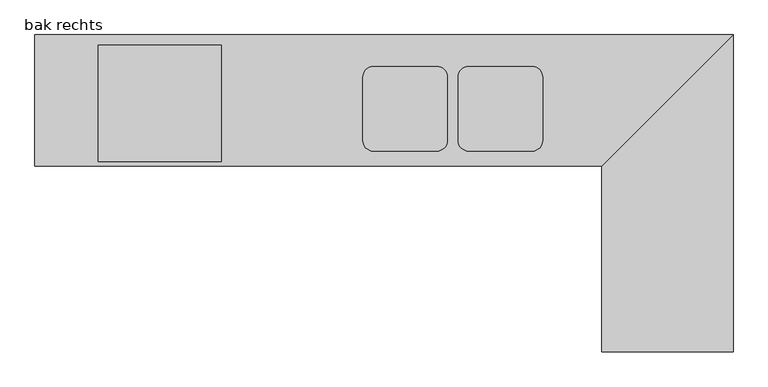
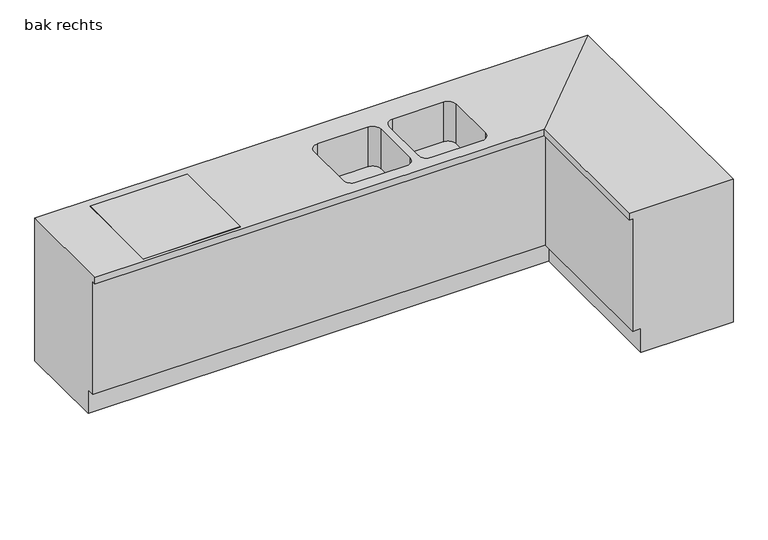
"""IFC4 building model written with IfcOpenShell, lengths in millimetres: furniture geometry, NL_73_aanrechtblok hoek : bak rechts."""

from ifc_helpers import new_model, si_unit, frame, origin, place, context, project, spatial, polyline, circle_curve, outline, extrude, source, transform, mapped, element, save
from ifc_brep_helpers import plane_surface, revolved_surface, advanced_brep


def bak_rechts_88211681(model_context):
    return source(origin(), model_context, "Body", "SolidModel", [
        extrude(outline(polyline([(-1889.8761694, -50.0), (-1889.8761694, -600.0), (-2469.8761694, -600.0), (-2469.8761694, -50.0), (-1889.8761694, -50.0)])), frame((0.0, 0.0, 900.0), z_axis=(0.0, 0.0, 1.0), x_axis=(1.0, 0.0, 0.0)), (0.0, 0.0, 1.0), 2.0),
        advanced_brep(
        [(-2769.8761694, -550.0, 0.0), (-2769.8761694, -550.0, 150.0), (-2769.8761694, -600.0, 150.0), (-2769.8761694, -600.0, 860.0), (-2769.8761694, -620.0, 860.0), (-2769.8761694, -620.0, 900.0), (-2769.8761694, 0.0, 900.0), (-2769.8761694, 0.0, 0.0), (-19.8761694, -550.0, 0.0), (-19.8761694, -550.0, 150.0), (-69.8761694, -600.0, 150.0), (-69.8761694, -600.0, 860.0), (-89.8761694, -620.0, 860.0), (-89.8761694, -620.0, 900.0), (530.1238306, 0.0, 900.0), (-1169.8761694, -150.0, 900.0), (-869.8761694, -150.0, 900.0), (-819.8761694, -200.0, 900.0), (-819.8761694, -500.0, 900.0), (-869.8761694, -550.0, 900.0), (-1169.8761694, -550.0, 900.0), (-1219.8761694, -500.0, 900.0), (-1219.8761694, -200.0, 900.0), (-719.8761694, -150.0, 900.0), (-419.8761694, -150.0, 900.0), (-369.8761694, -200.0, 900.0), (-369.8761694, -500.0, 900.0), (-419.8761694, -550.0, 900.0), (-719.8761694, -550.0, 900.0), (-769.8761694, -500.0, 900.0), (-769.8761694, -200.0, 900.0), (530.1238306, 0.0, 0.0), (-19.8761694, -1500.0, 0.0), (530.1238306, -1500.0, 0.0), (530.1238306, -1500.0, 900.0), (-89.8761694, -1500.0, 900.0), (-89.8761694, -1500.0, 860.0), (-69.8761694, -1500.0, 860.0), (-69.8761694, -1500.0, 150.0), (-19.8761694, -1500.0, 150.0), (-869.8761694, -150.0, 650.0), (-1169.8761694, -150.0, 650.0), (-1219.8761694, -200.0, 650.0), (-1219.8761694, -500.0, 650.0), (-1169.8761694, -550.0, 650.0), (-869.8761694, -550.0, 650.0), (-819.8761694, -500.0, 650.0), (-819.8761694, -200.0, 650.0), (-419.8761694, -150.0, 650.0), (-719.8761694, -150.0, 650.0), (-769.8761694, -200.0, 650.0), (-769.8761694, -500.0, 650.0), (-719.8761694, -550.0, 650.0), (-419.8761694, -550.0, 650.0), (-369.8761694, -500.0, 650.0), (-369.8761694, -200.0, 650.0)],
        [
            (0, 1),
            (1, 2),
            (2, 3),
            (3, 4),
            (4, 5),
            (5, 6),
            (6, 7),
            (7, 0),
            (0, 8),
            (8, 9),
            (9, 1),
            (9, 10),
            (10, 2),
            (10, 11),
            (11, 3),
            (11, 12),
            (12, 4),
            (12, 13),
            (13, 5),
            (13, 14),
            (14, 6),
            (15, 16),
            (16, 17, circle_curve(frame((-869.8761694, -200.0, 900.0), z_axis=(0.0, 0.0, -1.0), x_axis=(0.0, -1.0, 0.0)), 50.0)),
            (17, 18),
            (18, 19, circle_curve(frame((-869.8761694, -500.0, 900.0), z_axis=(0.0, 0.0, -1.0), x_axis=(0.0, -1.0, 0.0)), 50.0)),
            (19, 20),
            (20, 21, circle_curve(frame((-1169.8761694, -500.0, 900.0), z_axis=(0.0, 0.0, -1.0), x_axis=(0.0, -1.0, 0.0)), 50.0)),
            (21, 22),
            (22, 15, circle_curve(frame((-1169.8761694, -200.0, 900.0), z_axis=(0.0, 0.0, -1.0), x_axis=(0.0, -1.0, 0.0)), 50.0)),
            (23, 24),
            (24, 25, circle_curve(frame((-419.8761694, -200.0, 900.0), z_axis=(0.0, 0.0, -1.0), x_axis=(0.0, -1.0, 0.0)), 50.0)),
            (25, 26),
            (26, 27, circle_curve(frame((-419.8761694, -500.0, 900.0), z_axis=(0.0, 0.0, -1.0), x_axis=(0.0, -1.0, 0.0)), 50.0)),
            (27, 28),
            (28, 29, circle_curve(frame((-719.8761694, -500.0, 900.0), z_axis=(0.0, 0.0, -1.0), x_axis=(0.0, -1.0, 0.0)), 50.0)),
            (29, 30),
            (30, 23, circle_curve(frame((-719.8761694, -200.0, 900.0), z_axis=(0.0, 0.0, -1.0), x_axis=(0.0, -1.0, 0.0)), 50.0)),
            (14, 31),
            (31, 7),
            (31, 8),
            (32, 33),
            (33, 34),
            (34, 35),
            (35, 36),
            (36, 37),
            (37, 38),
            (38, 39),
            (39, 32),
            (8, 32),
            (39, 9),
            (38, 10),
            (37, 11),
            (36, 12),
            (35, 13),
            (34, 14),
            (33, 31),
            (40, 41),
            (41, 42, circle_curve(frame((-1169.8761694, -200.0, 650.0), z_axis=(0.0, 0.0, 1.0), x_axis=(0.0, -1.0, 0.0)), 50.0)),
            (42, 43),
            (43, 44, circle_curve(frame((-1169.8761694, -500.0, 650.0), z_axis=(0.0, 0.0, 1.0), x_axis=(0.0, -1.0, 0.0)), 50.0)),
            (44, 45),
            (45, 46, circle_curve(frame((-869.8761694, -500.0, 650.0), z_axis=(0.0, 0.0, 1.0), x_axis=(0.0, -1.0, 0.0)), 50.0)),
            (46, 47),
            (47, 40, circle_curve(frame((-869.8761694, -200.0, 650.0), z_axis=(0.0, 0.0, 1.0), x_axis=(0.0, -1.0, 0.0)), 50.0)),
            (40, 16),
            (15, 41),
            (22, 42),
            (21, 43),
            (20, 44),
            (19, 45),
            (18, 46),
            (17, 47),
            (48, 49),
            (49, 50, circle_curve(frame((-719.8761694, -200.0, 650.0), z_axis=(0.0, 0.0, 1.0), x_axis=(0.0, -1.0, 0.0)), 50.0)),
            (50, 51),
            (51, 52, circle_curve(frame((-719.8761694, -500.0, 650.0), z_axis=(0.0, 0.0, 1.0), x_axis=(0.0, -1.0, 0.0)), 50.0)),
            (52, 53),
            (53, 54, circle_curve(frame((-419.8761694, -500.0, 650.0), z_axis=(0.0, 0.0, 1.0), x_axis=(0.0, -1.0, 0.0)), 50.0)),
            (54, 55),
            (55, 48, circle_curve(frame((-419.8761694, -200.0, 650.0), z_axis=(0.0, 0.0, 1.0), x_axis=(0.0, -1.0, 0.0)), 50.0)),
            (48, 24),
            (23, 49),
            (30, 50),
            (29, 51),
            (28, 52),
            (27, 53),
            (26, 54),
            (25, 55),
        ],
        [
            plane_surface(frame((-2769.8761694, 0.0, -1092.8860874), z_axis=(-1.0, 0.0, 0.0), x_axis=(0.0, 1.0, 0.0))),
            plane_surface(frame((-2769.8761694, -550.0, 0.0), z_axis=(0.0, -1.0, 0.0), x_axis=(1.0, 0.0, 0.0))),
            plane_surface(frame((-2769.8761694, -550.0, 150.0), z_axis=(0.0, 0.0, -1.0), x_axis=(1.0, 0.0, 0.0))),
            plane_surface(frame((-2769.8761694, -600.0, 150.0), z_axis=(0.0, -1.0, 0.0), x_axis=(1.0, 0.0, 0.0))),
            plane_surface(frame((-2769.8761694, -600.0, 860.0), z_axis=(0.0, 0.0, -1.0), x_axis=(1.0, 0.0, 0.0))),
            plane_surface(frame((-2769.8761694, -620.0, 860.0), z_axis=(0.0, -1.0, 0.0), x_axis=(1.0, 0.0, 0.0))),
            plane_surface(frame((-2769.8761694, -620.0, 900.0), z_axis=(0.0, 0.0, 1.0), x_axis=(1.0, 0.0, 0.0))),
            plane_surface(frame((-2769.8761694, 0.0, 900.0), z_axis=(0.0, 1.0, 0.0), x_axis=(1.0, 0.0, 0.0))),
            plane_surface(frame((-2769.8761694, 0.0, 0.0), z_axis=(0.0, 0.0, -1.0), x_axis=(1.0, 0.0, 0.0))),
            plane_surface(frame((-562.7622567, -1500.0, 0.0), z_axis=(0.0, -1.0, 0.0), x_axis=(0.0, 0.0, -1.0))),
            plane_surface(frame((-19.8761694, -550.0, 0.0), z_axis=(-1.0, 0.0, 0.0), x_axis=(0.0, -1.0, 0.0))),
            plane_surface(frame((-19.8761694, -550.0, 150.0), z_axis=(0.0, 0.0, -1.0), x_axis=(0.0, -1.0, 0.0))),
            plane_surface(frame((-69.8761694, -600.0, 150.0), z_axis=(-1.0, 0.0, 0.0), x_axis=(0.0, -1.0, 0.0))),
            plane_surface(frame((-69.8761694, -600.0, 860.0), z_axis=(0.0, 0.0, -1.0), x_axis=(0.0, -1.0, 0.0))),
            plane_surface(frame((-89.8761694, -620.0, 860.0), z_axis=(-1.0, 0.0, 0.0), x_axis=(0.0, -1.0, 0.0))),
            plane_surface(frame((-89.8761694, -620.0, 900.0), z_axis=(0.0, 0.0, 1.0), x_axis=(0.0, -1.0, 0.0))),
            plane_surface(frame((530.1238306, 0.0, 900.0), z_axis=(1.0, 0.0, 0.0), x_axis=(0.0, -1.0, 0.0))),
            plane_surface(frame((530.1238306, 0.0, 0.0), z_axis=(0.0, 0.0, -1.0), x_axis=(0.0, -1.0, 0.0))),
            plane_surface(frame((-1169.8761694, -150.0, 650.0), z_axis=(0.0, 0.0, 1.0), x_axis=(1.0, 0.0, 0.0))),
            plane_surface(frame((-869.8761694, -150.0, 900.0), z_axis=(0.0, -1.0, 0.0), x_axis=(0.0, 0.0, -1.0))),
            revolved_surface(polyline([(-1169.8761694, -250.0, 900.0), (-1169.8761694, -250.0, 650.0)]), (-1169.8761694, -200.0, 650.0), (0.0, 0.0, 1.0)),
            plane_surface(frame((-1219.8761694, -200.0, 900.0), z_axis=(1.0, 0.0, 0.0), x_axis=(0.0, 0.0, -1.0))),
            revolved_surface(polyline([(-1169.8761694, -550.0, 900.0), (-1169.8761694, -550.0, 650.0)]), (-1169.8761694, -500.0, 650.0), (0.0, 0.0, 1.0)),
            plane_surface(frame((-1169.8761694, -550.0, 900.0), z_axis=(0.0, 1.0, 0.0), x_axis=(0.0, 0.0, -1.0))),
            revolved_surface(polyline([(-869.8761694, -550.0, 900.0), (-869.8761694, -550.0, 650.0)]), (-869.8761694, -500.0, 650.0), (0.0, 0.0, 1.0)),
            plane_surface(frame((-819.8761694, -500.0, 900.0), z_axis=(-1.0, 0.0, 0.0), x_axis=(0.0, 0.0, -1.0))),
            revolved_surface(polyline([(-869.8761694, -250.0, 900.0), (-869.8761694, -250.0, 650.0)]), (-869.8761694, -200.0, 650.0), (0.0, 0.0, 1.0)),
            plane_surface(frame((-719.8761694, -150.0, 650.0), z_axis=(0.0, 0.0, 1.0), x_axis=(1.0, 0.0, 0.0))),
            plane_surface(frame((-419.8761694, -150.0, 900.0), z_axis=(0.0, -1.0, 0.0), x_axis=(0.0, 0.0, -1.0))),
            revolved_surface(polyline([(-719.8761694, -250.0, 900.0), (-719.8761694, -250.0, 650.0)]), (-719.8761694, -200.0, 650.0), (0.0, 0.0, 1.0)),
            plane_surface(frame((-769.8761694, -200.0, 900.0), z_axis=(1.0, 0.0, 0.0), x_axis=(0.0, 0.0, -1.0))),
            revolved_surface(polyline([(-719.8761694, -550.0, 900.0), (-719.8761694, -550.0, 650.0)]), (-719.8761694, -500.0, 650.0), (0.0, 0.0, 1.0)),
            plane_surface(frame((-719.8761694, -550.0, 900.0), z_axis=(0.0, 1.0, 0.0), x_axis=(0.0, 0.0, -1.0))),
            revolved_surface(polyline([(-419.8761694, -550.0, 900.0), (-419.8761694, -550.0, 650.0)]), (-419.8761694, -500.0, 650.0), (0.0, 0.0, 1.0)),
            plane_surface(frame((-369.8761694, -500.0, 900.0), z_axis=(-1.0, 0.0, 0.0), x_axis=(0.0, 0.0, -1.0))),
            revolved_surface(polyline([(-419.8761694, -250.0, 900.0), (-419.8761694, -250.0, 650.0)]), (-419.8761694, -200.0, 650.0), (0.0, 0.0, 1.0)),
        ],
        [
            (0, [[1, 2, 3, 4, 5, 6, 7, 8]]),
            (1, [[-1, 9, 10, 11]]),
            (2, [[-2, -11, 12, 13]]),
            (3, [[-3, -13, 14, 15]]),
            (4, [[-4, -15, 16, 17]]),
            (5, [[-5, -17, 18, 19]]),
            (6, [[-6, -19, 20, 21], [22, 23, 24, 25, 26, 27, 28, 29], [30, 31, 32, 33, 34, 35, 36, 37]]),
            (7, [[-7, -21, 38, 39]]),
            (8, [[-8, -39, 40, -9]]),
            (9, [[41, 42, 43, 44, 45, 46, 47, 48]]),
            (10, [[-10, 49, -48, 50]]),
            (11, [[-12, -50, -47, 51]]),
            (12, [[-14, -51, -46, 52]]),
            (13, [[-16, -52, -45, 53]]),
            (14, [[-18, -53, -44, 54]]),
            (15, [[-20, -54, -43, 55]]),
            (16, [[-38, -55, -42, 56]]),
            (17, [[-40, -56, -41, -49]]),
            (18, [[57, 58, 59, 60, 61, 62, 63, 64]]),
            (19, [[-57, 65, -22, 66]]),
            (20, [[-58, -66, -29, 67]]),
            (21, [[-59, -67, -28, 68]]),
            (22, [[-60, -68, -27, 69]]),
            (23, [[-61, -69, -26, 70]]),
            (24, [[-62, -70, -25, 71]]),
            (25, [[-63, -71, -24, 72]]),
            (26, [[-64, -72, -23, -65]]),
            (27, [[73, 74, 75, 76, 77, 78, 79, 80]]),
            (28, [[-73, 81, -30, 82]]),
            (29, [[-74, -82, -37, 83]]),
            (30, [[-75, -83, -36, 84]]),
            (31, [[-76, -84, -35, 85]]),
            (32, [[-77, -85, -34, 86]]),
            (33, [[-78, -86, -33, 87]]),
            (34, [[-79, -87, -32, 88]]),
            (35, [[-80, -88, -31, -81]]),
        ],
    ),
    ])


if __name__ == "__main__":
    model = new_model("IFC4")
    model_context = context("Model", 3, world=origin())
    ifc_project = project(units=[si_unit("LENGTHUNIT", "METRE", prefix="MILLI")], contexts=[model_context])
    site = spatial("IfcSite", under=ifc_project)
    building = spatial("IfcBuilding", under=site)
    placement = place(None, origin())
    bak_rechts_shape = bak_rechts_88211681(model_context)
    element("IfcFurniture", 1, ObjectType="NL_73_aanrechtblok hoek : bak rechts", at=placement, inside=building, context=model_context, shape_type="MappedRepresentation", body=[
        mapped(bak_rechts_shape, transform((0.0, 0.0, 0.0), x_axis=(1.0, 0.0, 0.0), y_axis=(0.0, 1.0, 0.0), z_axis=(0.0, 0.0, 1.0))),
    ])
    save(model, "model.ifc")
